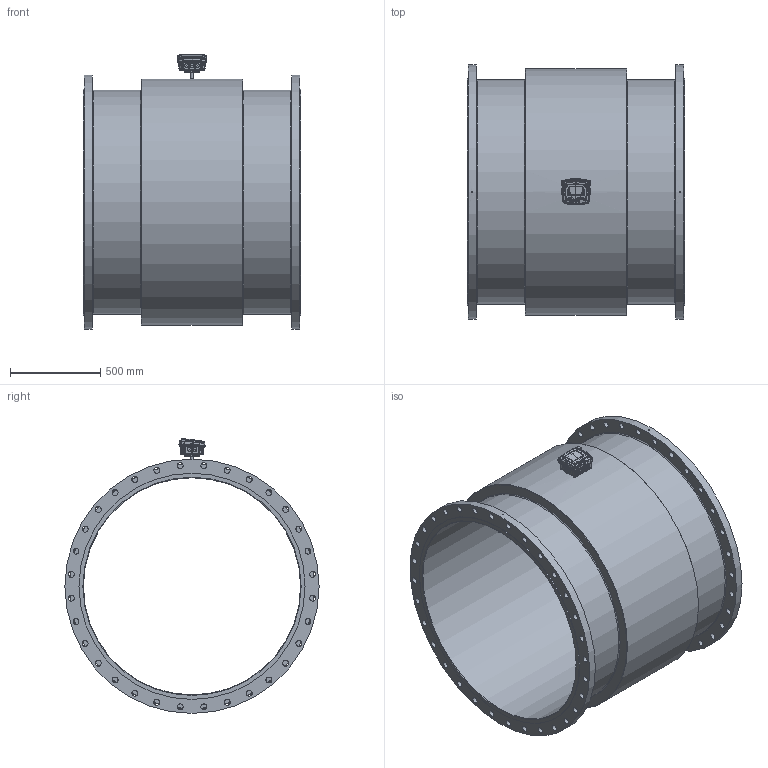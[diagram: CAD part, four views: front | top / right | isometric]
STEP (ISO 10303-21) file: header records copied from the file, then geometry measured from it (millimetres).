
FILE_DESCRIPTION((''),'2;1');
FILE_NAME('C:\Users\Claus\Dropbox\Projects 2011 - 2012\MJK Automation AS\STEP 3D DIN EN-1095-1\DN 1200 - DIN EN-1095-1.stp','2015-01-17T21:37:26',('Claus'),(''),'Autodesk Inventor 2013','Autodesk Inventor 2013','');
FILE_SCHEMA(('AUTOMOTIVE_DESIGN { 1 0 10303 214 1 1 1 1 }'));
Length unit declared in the file: millimetre
Products named in the file (7): DN 1200 - DIN EN-1092-1; FC_MagFlux_assembly_r1; CH Bund ml; FC Top rev 06.04; CH 03.02; Electrode group DN15 - DN32
Assembly tree (8 placements, depth 3):
  DN 1200 - DIN EN-1092-1
    DN 1200 - DIN EN-1092-1
    FC_MagFlux_assembly_r1
      CH Bund ml
      FC Top rev 06.04
      CH 03.02
    Electrode group DN15 - DN32  x3
Bounding box: 1200 x 1405 x 1518.84 mm (x, y, z)
Volume: 257699409.6 mm3; surface area: 11840642.7 mm2
Topology: 10 solids, 10 shells, 2983 faces, 8138 edges, 5299 vertices
Faces by surface type: bspline 1752, plane 810, cylinder 258, cone 123, torus 25, revolution 9, sphere 6
Full cylindrical faces by diameter (mm): 2.5 x3, 3 x6, 4 x1, 6 x2, 6.5 x4, 7.042 x4, 8 x3, 8.048 x4, 12.072 x4, 15 x1, 18 x1, 18.108 x1, 33 x64, 64 x1, 1200 x1, 1240 x2, 1250 x2, 1360 x1, 1405 x2
Entity records: 235698 total; most frequent: CARTESIAN_POINT 171810, ORIENTED_EDGE 15688, DIRECTION 8045, EDGE_CURVE 7844, VERTEX_POINT 5237, EDGE_LOOP 3465, VECTOR 3112, LINE 3112
